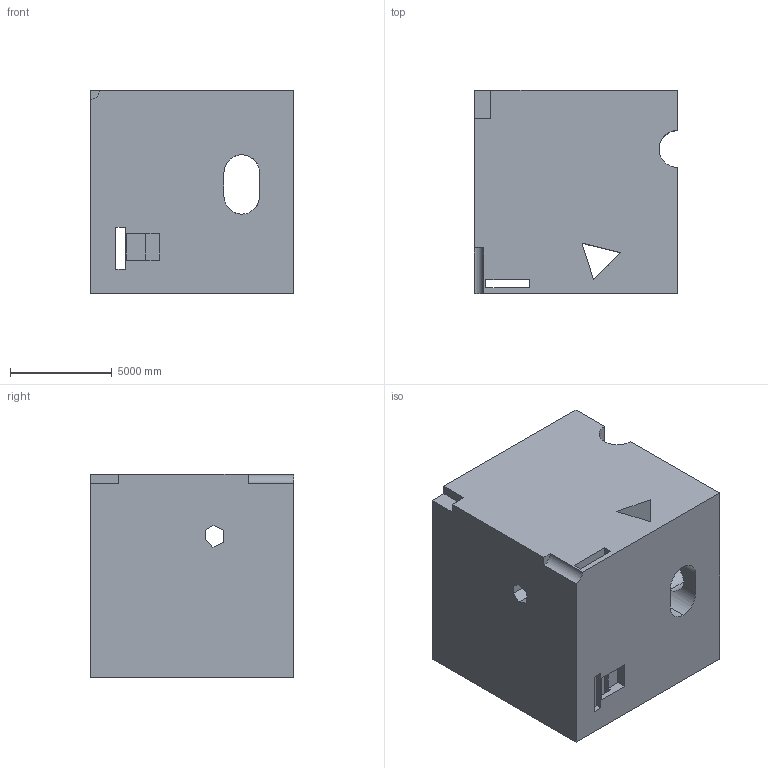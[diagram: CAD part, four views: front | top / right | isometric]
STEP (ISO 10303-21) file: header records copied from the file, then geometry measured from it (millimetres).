
FILE_DESCRIPTION (( 'STEP AP203' ), '1' );
FILE_NAME ('91.STEP', '2022-09-01T12:07:01', ( 'user' ), ( '' ), 'SwSTEP 2.0', 'SolidWorks 2021', '' );
FILE_SCHEMA (( 'CONFIG_CONTROL_DESIGN' ));
Length unit declared in the file: centimetre
Products named in the file (1): 91
Bounding box: 10000 x 10000 x 10000 mm (x, y, z)
Volume: 892692586435.4 mm3; surface area: 860131471.7 mm2
Topology: 1 solids, 1 shells, 54 faces, 168 edges, 112 vertices
Faces by surface type: plane 43, cylinder 11
Entity records: 2145 total; most frequent: CARTESIAN_POINT 555, ORIENTED_EDGE 336, DIRECTION 282, EDGE_CURVE 168, LINE 132, VECTOR 132, VERTEX_POINT 112, AXIS2_PLACEMENT_3D 75
